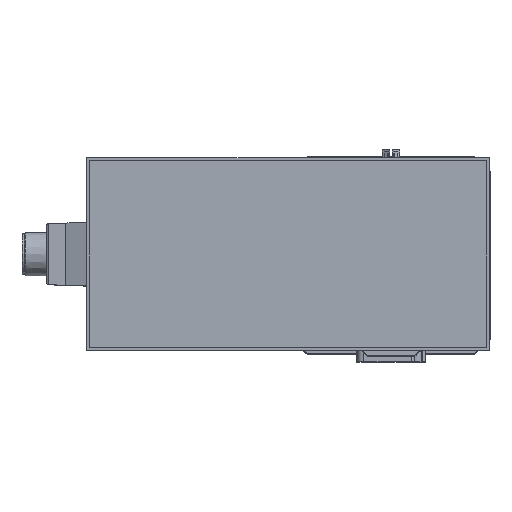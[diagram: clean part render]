
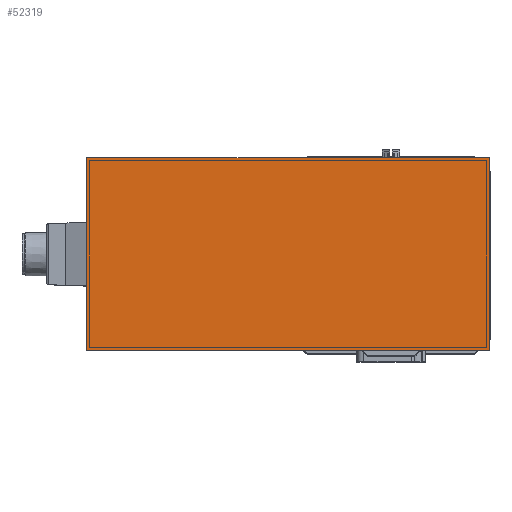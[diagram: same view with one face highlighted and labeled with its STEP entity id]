
A CAD part, top view. The second image highlights one B-rep face of the part: STEP entity #52319.
In plain terms, the highlighted planar face has unit normal (0, 0, 1).
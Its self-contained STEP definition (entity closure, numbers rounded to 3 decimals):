
#52280=CARTESIAN_POINT('',(-75.5,-77.,621.));
#52281=DIRECTION('',(0.,-1.,0.));
#52282=DIRECTION('',(-0.,0.,1.));
#52283=AXIS2_PLACEMENT_3D('',#52280,#52282,#52281);
#52284=PLANE('',#52283);
#52285=CARTESIAN_POINT('',(72.,70.5,621.));
#52286=VERTEX_POINT('',#52285);
#52287=CARTESIAN_POINT('',(-223.,70.5,621.));
#52288=VERTEX_POINT('',#52287);
#52289=CARTESIAN_POINT('',(72.,70.5,621.));
#52290=DIRECTION('',(-1.,0.,0.));
#52291=VECTOR('',#52290,295.);
#52292=LINE('',#52289,#52291);
#52293=EDGE_CURVE('',#52286,#52288,#52292,.T.);
#52294=ORIENTED_EDGE('E7709',*,*,#52293,.T.);
#52295=CARTESIAN_POINT('',(-223.,-70.5,621.));
#52296=VERTEX_POINT('',#52295);
#52297=CARTESIAN_POINT('',(-223.,70.5,621.));
#52298=DIRECTION('',(0.,-1.,0.));
#52299=VECTOR('',#52298,141.);
#52300=LINE('',#52297,#52299);
#52301=EDGE_CURVE('',#52288,#52296,#52300,.T.);
#52302=ORIENTED_EDGE('E7710',*,*,#52301,.T.);
#52303=CARTESIAN_POINT('',(72.,-70.5,621.));
#52304=VERTEX_POINT('',#52303);
#52305=CARTESIAN_POINT('',(-223.,-70.5,621.));
#52306=DIRECTION('',(1.,0.,0.));
#52307=VECTOR('',#52306,295.);
#52308=LINE('',#52305,#52307);
#52309=EDGE_CURVE('',#52296,#52304,#52308,.T.);
#52310=ORIENTED_EDGE('E7711',*,*,#52309,.T.);
#52311=CARTESIAN_POINT('',(72.,-70.5,621.));
#52312=DIRECTION('',(0.,1.,0.));
#52313=VECTOR('',#52312,141.);
#52314=LINE('',#52311,#52313);
#52315=EDGE_CURVE('',#52304,#52286,#52314,.T.);
#52316=ORIENTED_EDGE('E7712',*,*,#52315,.T.);
#52317=EDGE_LOOP('',(#52294,#52302,#52310,#52316));
#52318=FACE_OUTER_BOUND('',#52317,.T.);
#52319=ADVANCED_FACE('F2997',(#52318),#52284,.T.);
